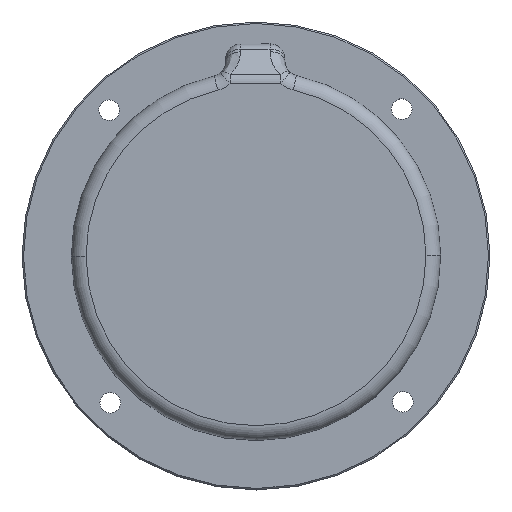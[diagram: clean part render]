
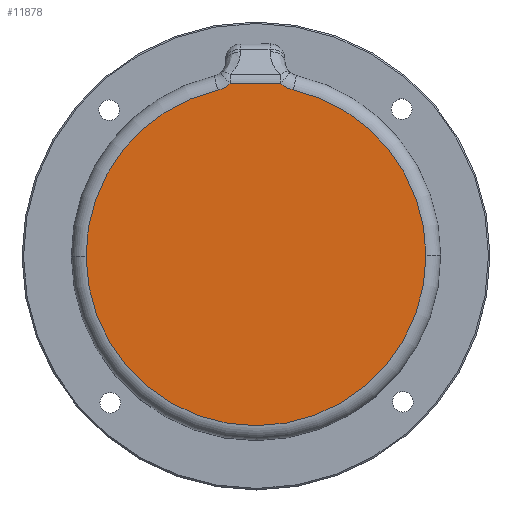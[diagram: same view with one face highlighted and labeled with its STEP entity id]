
A CAD part, top view. The second image highlights one B-rep face of the part: STEP entity #11878.
In plain terms, the highlighted planar face has unit normal (0, 0, 1) as drawn and (0, 0, -1) by its records, which use the part's own axes.
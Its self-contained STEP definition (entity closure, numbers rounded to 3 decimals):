
#374 = VERTEX_POINT ( 'NONE', #7367 ) ;
#719 = FACE_OUTER_BOUND ( 'NONE', #1030, .T. ) ;
#854 = DIRECTION ( 'NONE',  ( 1., 0., 0. ) ) ;
#1019 = ORIENTED_EDGE ( 'NONE', *, *, #1530, .T. ) ;
#1030 = EDGE_LOOP ( 'NONE', ( #8315, #7021, #1019, #4257, #1800, #12913 ) ) ;
#1047 = CIRCLE ( 'NONE', #10622, 6. ) ;
#1232 = EDGE_CURVE ( 'NONE', #5424, #5161, #7792, .T. ) ;
#1346 = DIRECTION ( 'NONE',  ( 1., 0., 0. ) ) ;
#1530 = EDGE_CURVE ( 'NONE', #5161, #6277, #5941, .T. ) ;
#1660 = AXIS2_PLACEMENT_3D ( 'NONE', #11779, #2369, #6712 ) ;
#1800 = ORIENTED_EDGE ( 'NONE', *, *, #7673, .T. ) ;
#1853 = CARTESIAN_POINT ( 'NONE',  ( 4.118, 34.908, -19.2 ) ) ;
#2253 = EDGE_CURVE ( 'NONE', #8656, #5424, #1047, .T. ) ;
#2369 = DIRECTION ( 'NONE',  ( 0., 0., 1. ) ) ;
#2389 = DIRECTION ( 'NONE',  ( 0., 0., -1. ) ) ;
#2465 = CARTESIAN_POINT ( 'NONE',  ( 7.667, 33.637, -19.2 ) ) ;
#2623 = CARTESIAN_POINT ( 'NONE',  ( 0., 0., -19.2 ) ) ;
#2647 = PLANE ( 'NONE',  #10156 ) ;
#2908 = VECTOR ( 'NONE', #9995, 1000. ) ;
#2924 = AXIS2_PLACEMENT_3D ( 'NONE', #11530, #2389, #6467 ) ;
#3428 = DIRECTION ( 'NONE',  ( 0., 0., -1. ) ) ;
#3501 = AXIS2_PLACEMENT_3D ( 'NONE', #12549, #3428, #6564 ) ;
#3534 = VERTEX_POINT ( 'NONE', #11880 ) ;
#3708 = DIRECTION ( 'NONE',  ( 0., 0., -1. ) ) ;
#3950 = CARTESIAN_POINT ( 'NONE',  ( 5.123, 34.908, -19.2 ) ) ;
#4257 = ORIENTED_EDGE ( 'NONE', *, *, #7025, .T. ) ;
#5161 = VERTEX_POINT ( 'NONE', #3950 ) ;
#5424 = VERTEX_POINT ( 'NONE', #8970 ) ;
#5708 = AXIS2_PLACEMENT_3D ( 'NONE', #2623, #3708, #6765 ) ;
#5941 = CIRCLE ( 'NONE', #1660, 6. ) ;
#6131 = CARTESIAN_POINT ( 'NONE',  ( 0., 37.5, -19.2 ) ) ;
#6277 = VERTEX_POINT ( 'NONE', #2465 ) ;
#6467 = DIRECTION ( 'NONE',  ( 1., 0., 0. ) ) ;
#6564 = DIRECTION ( 'NONE',  ( 1., 0., 0. ) ) ;
#6712 = DIRECTION ( 'NONE',  ( 1., 0., 0. ) ) ;
#6765 = DIRECTION ( 'NONE',  ( 1., 0., 0. ) ) ;
#7021 = ORIENTED_EDGE ( 'NONE', *, *, #1232, .T. ) ;
#7025 = EDGE_CURVE ( 'NONE', #6277, #3534, #11446, .T. ) ;
#7337 = CIRCLE ( 'NONE', #3501, 34.5 ) ;
#7367 = CARTESIAN_POINT ( 'NONE',  ( -34.5, 0., -19.2 ) ) ;
#7673 = EDGE_CURVE ( 'NONE', #3534, #374, #9964, .T. ) ;
#7792 = LINE ( 'NONE', #1853, #2908 ) ;
#8315 = ORIENTED_EDGE ( 'NONE', *, *, #2253, .T. ) ;
#8656 = VERTEX_POINT ( 'NONE', #9459 ) ;
#8970 = CARTESIAN_POINT ( 'NONE',  ( -5.123, 34.908, -19.2 ) ) ;
#9459 = CARTESIAN_POINT ( 'NONE',  ( -7.667, 33.637, -19.2 ) ) ;
#9964 = CIRCLE ( 'NONE', #2924, 34.5 ) ;
#9995 = DIRECTION ( 'NONE',  ( 1., 0., 0. ) ) ;
#10156 = AXIS2_PLACEMENT_3D ( 'NONE', #6131, #11990, #854 ) ;
#10469 = DIRECTION ( 'NONE',  ( 0., 0., 1. ) ) ;
#10622 = AXIS2_PLACEMENT_3D ( 'NONE', #11481, #10469, #1346 ) ;
#11228 = EDGE_CURVE ( 'NONE', #374, #8656, #7337, .T. ) ;
#11446 = CIRCLE ( 'NONE', #5708, 34.5 ) ;
#11481 = CARTESIAN_POINT ( 'NONE',  ( -9., 39.487, -19.2 ) ) ;
#11530 = CARTESIAN_POINT ( 'NONE',  ( 0., 0., -19.2 ) ) ;
#11779 = CARTESIAN_POINT ( 'NONE',  ( 9., 39.487, -19.2 ) ) ;
#11878 = ADVANCED_FACE ( 'NONE', ( #719 ), #2647, .F. ) ;
#11880 = CARTESIAN_POINT ( 'NONE',  ( 34.5, 0., -19.2 ) ) ;
#11990 = DIRECTION ( 'NONE',  ( 0., 0., 1. ) ) ;
#12549 = CARTESIAN_POINT ( 'NONE',  ( 0., 0., -19.2 ) ) ;
#12913 = ORIENTED_EDGE ( 'NONE', *, *, #11228, .T. ) ;
